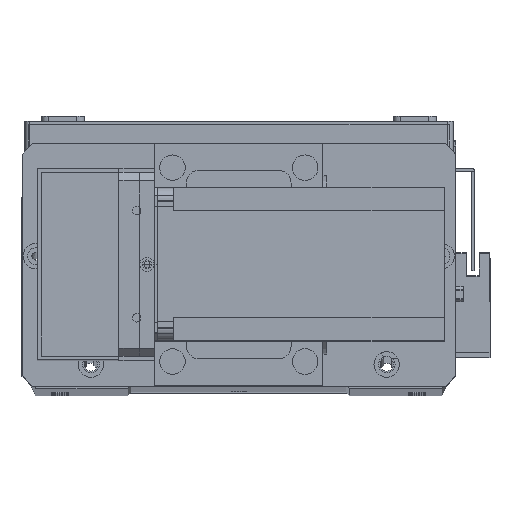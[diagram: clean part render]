
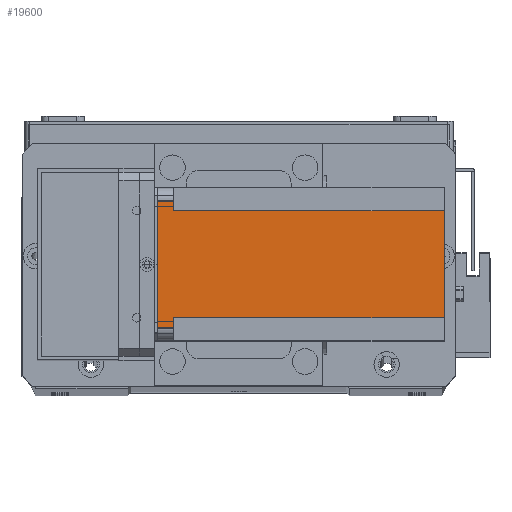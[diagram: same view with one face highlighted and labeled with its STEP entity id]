
A CAD part, top view. The second image highlights one B-rep face of the part: STEP entity #19600.
In plain terms, the highlighted planar face has unit normal (0, 0, 1) as drawn and (-1, 0, 0) by its records, which use the part's own axes.
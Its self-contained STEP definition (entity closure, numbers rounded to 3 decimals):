
#114 = CARTESIAN_POINT ( 'NONE',  ( 0., 51., -112.5 ) ) ;
#212 = AXIS2_PLACEMENT_3D ( 'NONE', #7289, #9835, #27455 ) ;
#323 = VERTEX_POINT ( 'NONE', #17745 ) ;
#1389 = EDGE_CURVE ( 'NONE', #323, #7838, #26410, .T. ) ;
#2402 = DIRECTION ( 'NONE',  ( 0., 0., 1. ) ) ;
#2977 = CARTESIAN_POINT ( 'NONE',  ( 0., 0., -112.5 ) ) ;
#3112 = EDGE_CURVE ( 'NONE', #14844, #24342, #23517, .T. ) ;
#3192 = CARTESIAN_POINT ( 'NONE',  ( 0., 9., -6.5 ) ) ;
#3999 = VERTEX_POINT ( 'NONE', #19161 ) ;
#4023 = CARTESIAN_POINT ( 'NONE',  ( 0., 9., -112.5 ) ) ;
#4474 = CARTESIAN_POINT ( 'NONE',  ( 0., 0., 0. ) ) ;
#5093 = EDGE_CURVE ( 'NONE', #11390, #3999, #25623, .T. ) ;
#5240 = EDGE_CURVE ( 'NONE', #6614, #11390, #9075, .T. ) ;
#5539 = EDGE_CURVE ( 'NONE', #323, #26371, #31522, .T. ) ;
#6246 = ORIENTED_EDGE ( 'NONE', *, *, #27130, .F. ) ;
#6614 = VERTEX_POINT ( 'NONE', #28339 ) ;
#7289 = CARTESIAN_POINT ( 'NONE',  ( 0., 0., -112.5 ) ) ;
#7290 = ORIENTED_EDGE ( 'NONE', *, *, #1389, .F. ) ;
#7838 = VERTEX_POINT ( 'NONE', #32346 ) ;
#8041 = DIRECTION ( 'NONE',  ( 0., -1., 0. ) ) ;
#8738 = EDGE_LOOP ( 'NONE', ( #14161, #10481, #7290, #9534, #6246, #26264, #29005, #12475 ) ) ;
#9075 = LINE ( 'NONE', #24725, #20870 ) ;
#9291 = LINE ( 'NONE', #27916, #13602 ) ;
#9534 = ORIENTED_EDGE ( 'NONE', *, *, #5539, .T. ) ;
#9835 = DIRECTION ( 'NONE',  ( -1., 0., 0. ) ) ;
#10481 = ORIENTED_EDGE ( 'NONE', *, *, #18348, .T. ) ;
#10818 = LINE ( 'NONE', #32607, #16718 ) ;
#10857 = VECTOR ( 'NONE', #8041, 1000. ) ;
#11390 = VERTEX_POINT ( 'NONE', #3192 ) ;
#11416 = VECTOR ( 'NONE', #15777, 1000. ) ;
#12475 = ORIENTED_EDGE ( 'NONE', *, *, #5093, .F. ) ;
#13240 = CARTESIAN_POINT ( 'NONE',  ( 0., 55., -112.5 ) ) ;
#13602 = VECTOR ( 'NONE', #15679, 1000. ) ;
#13881 = FACE_OUTER_BOUND ( 'NONE', #8738, .T. ) ;
#14161 = ORIENTED_EDGE ( 'NONE', *, *, #5240, .F. ) ;
#14844 = VERTEX_POINT ( 'NONE', #31660 ) ;
#15679 = DIRECTION ( 'NONE',  ( 0., 1., 0. ) ) ;
#15777 = DIRECTION ( 'NONE',  ( 0., 0., -1. ) ) ;
#16530 = CARTESIAN_POINT ( 'NONE',  ( 0., 51., -6.5 ) ) ;
#16718 = VECTOR ( 'NONE', #2402, 1000. ) ;
#16756 = LINE ( 'NONE', #2977, #10857 ) ;
#16811 = VECTOR ( 'NONE', #17742, 1000. ) ;
#17160 = CARTESIAN_POINT ( 'NONE',  ( 0., 55., -6.5 ) ) ;
#17742 = DIRECTION ( 'NONE',  ( 0., 0., 1. ) ) ;
#17745 = CARTESIAN_POINT ( 'NONE',  ( 0., 55., 0. ) ) ;
#17893 = EDGE_CURVE ( 'NONE', #14844, #3999, #16756, .T. ) ;
#18348 = EDGE_CURVE ( 'NONE', #6614, #7838, #10818, .T. ) ;
#18879 = VECTOR ( 'NONE', #24627, 1000. ) ;
#19161 = CARTESIAN_POINT ( 'NONE',  ( 0., 9., -112.5 ) ) ;
#19600 = ADVANCED_FACE ( 'NONE', ( #13881 ), #22368, .T. ) ;
#20870 = VECTOR ( 'NONE', #27264, 1000. ) ;
#22368 = PLANE ( 'NONE',  #212 ) ;
#23517 = LINE ( 'NONE', #114, #16811 ) ;
#24342 = VERTEX_POINT ( 'NONE', #16530 ) ;
#24627 = DIRECTION ( 'NONE',  ( 0., -1., 0. ) ) ;
#24725 = CARTESIAN_POINT ( 'NONE',  ( 0., 0., -6.5 ) ) ;
#25623 = LINE ( 'NONE', #4023, #32345 ) ;
#26264 = ORIENTED_EDGE ( 'NONE', *, *, #3112, .F. ) ;
#26371 = VERTEX_POINT ( 'NONE', #17160 ) ;
#26410 = LINE ( 'NONE', #4474, #18879 ) ;
#27130 = EDGE_CURVE ( 'NONE', #24342, #26371, #9291, .T. ) ;
#27264 = DIRECTION ( 'NONE',  ( 0., 1., 0. ) ) ;
#27455 = DIRECTION ( 'NONE',  ( 0., -1., 0. ) ) ;
#27916 = CARTESIAN_POINT ( 'NONE',  ( 0., 60., -6.5 ) ) ;
#28339 = CARTESIAN_POINT ( 'NONE',  ( 0., 5., -6.5 ) ) ;
#29005 = ORIENTED_EDGE ( 'NONE', *, *, #17893, .T. ) ;
#31522 = LINE ( 'NONE', #13240, #11416 ) ;
#31660 = CARTESIAN_POINT ( 'NONE',  ( 0., 51., -112.5 ) ) ;
#31673 = DIRECTION ( 'NONE',  ( 0., 0., -1. ) ) ;
#32345 = VECTOR ( 'NONE', #31673, 1000. ) ;
#32346 = CARTESIAN_POINT ( 'NONE',  ( 0., 5., 0. ) ) ;
#32607 = CARTESIAN_POINT ( 'NONE',  ( 0., 5., -112.5 ) ) ;
